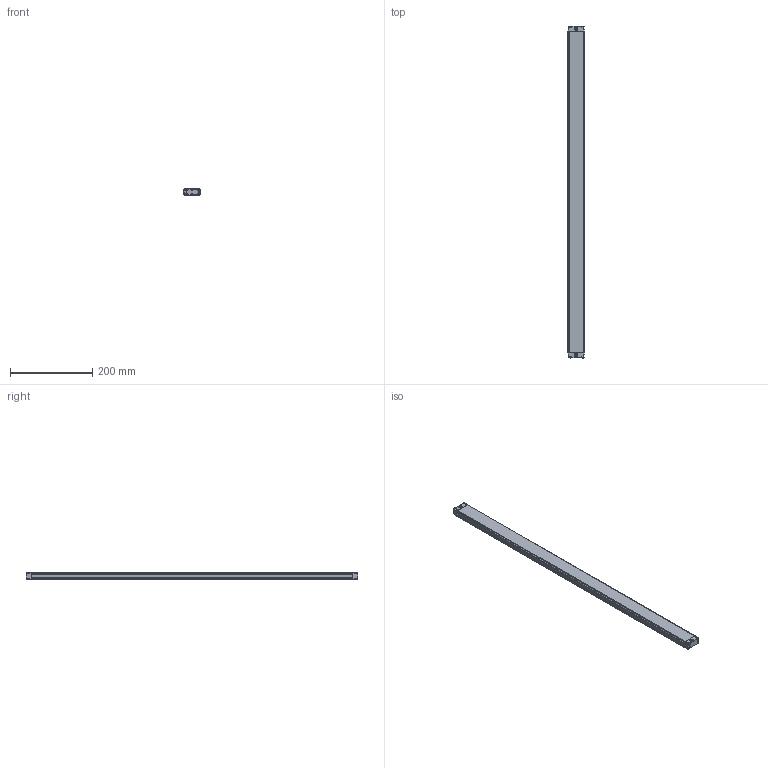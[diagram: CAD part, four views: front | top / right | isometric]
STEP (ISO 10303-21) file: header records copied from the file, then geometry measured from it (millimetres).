
FILE_DESCRIPTION((''),'2;1');
FILE_NAME('EB15--3610_ASM','2021-07-22T11:28:38',('18720616900'),(''),'CREO PARAMETRIC BY PTC INC, 2019010','CREO PARAMETRIC BY PTC INC, 2019010','');
FILE_SCHEMA(('CONFIG_CONTROL_DESIGN'));
Length unit declared in the file: millimetre
Products named in the file (6): EB15-00; EB15-000; EB15-0003; EB15-0004; ST-3-12; EB15--3610_ASM
Assembly tree (12 placements, depth 2):
  EB15--3610_ASM
    EB15-00
    EB15-000
    EB15-0003
    EB15-0004
    ST-3-12  x8
Bounding box: 39.15 x 805 x 15.8 mm (x, y, z)
Volume: 483671 mm3; surface area: 118486.7 mm2
Topology: 12 solids, 12 shells, 827 faces, 2188 edges, 1368 vertices
Faces by surface type: plane 242, bspline 188, cone 176, cylinder 165, torus 40, sphere 16
Entity records: 16044 total; most frequent: CARTESIAN_POINT 7660, ORIENTED_EDGE 1804, DIRECTION 1603, EDGE_CURVE 902, AXIS2_PLACEMENT_3D 577, VERTEX_POINT 563, VECTOR 449, LINE 449
